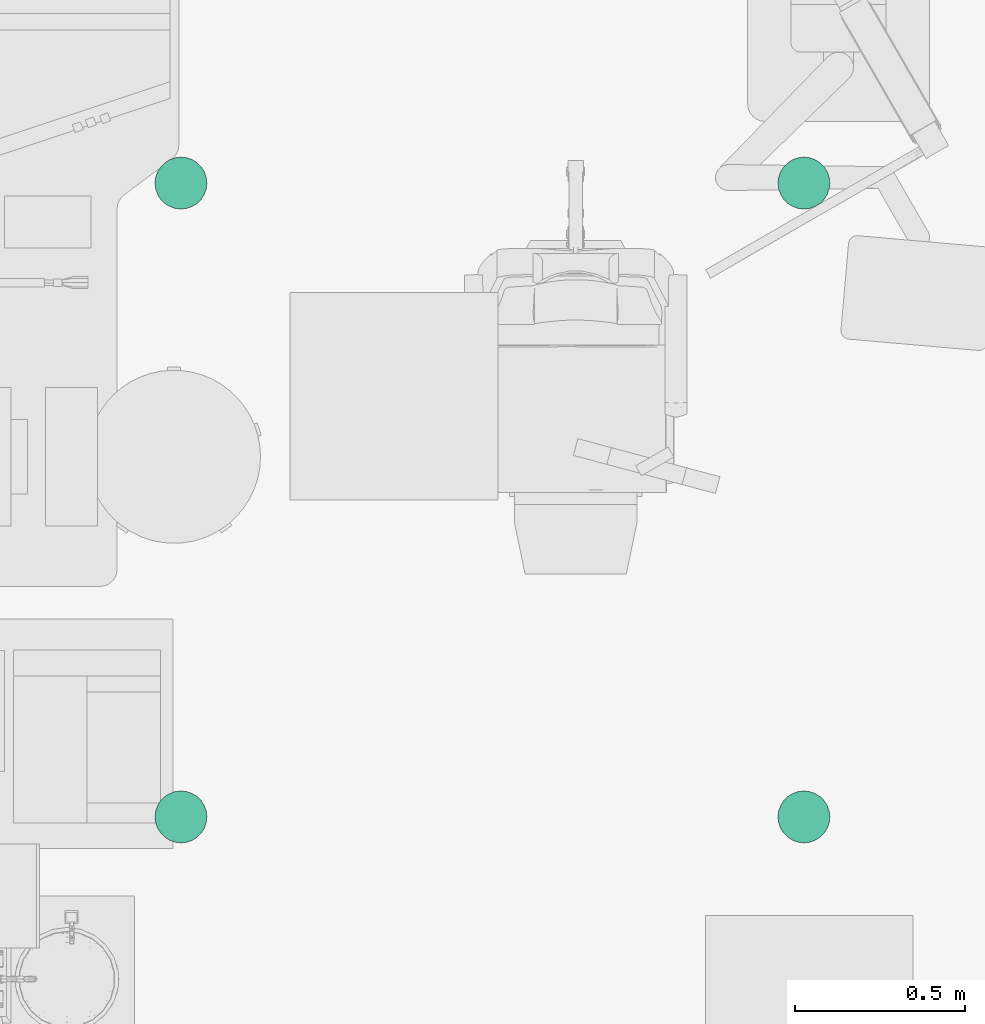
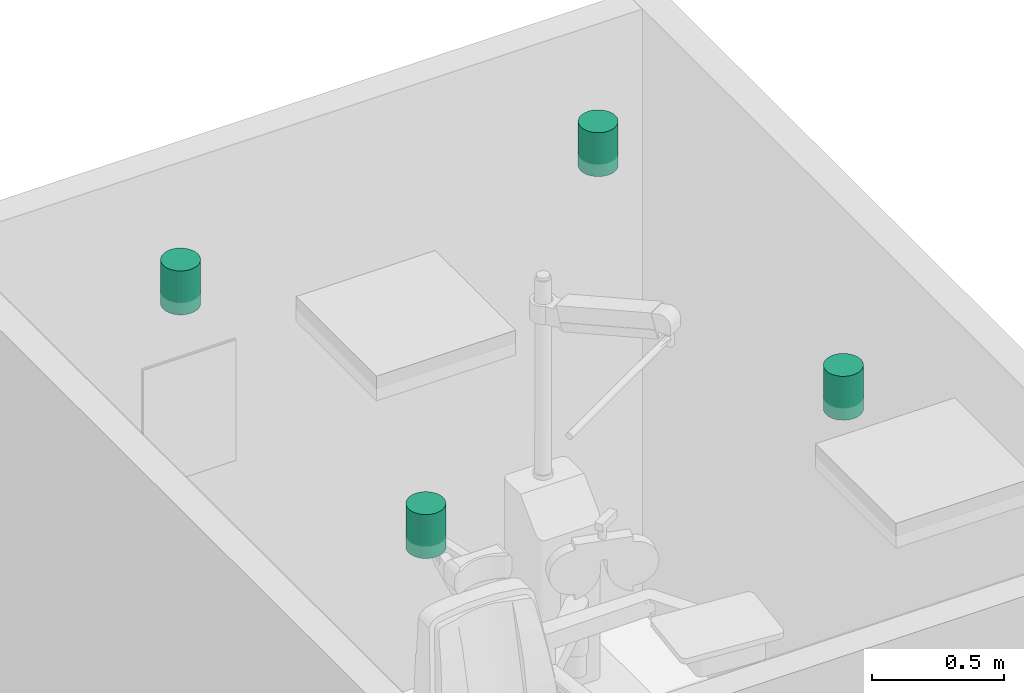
# One storey, part 4 of 11: 4 flow terminals.
"""IFC2X3 building model written with IfcOpenShell, lengths in feet."""

from ifc_helpers import new_model, entity, si_unit, converted_unit, derived_unit, direction, frame, frame_2d, origin, place, context, subcontext, project, spatial, circle, extrude, source, transform, mapped, type_object, type_shapes, element, save


model = new_model("IFC2X3")

# Units and contexts
model_context = context("Model", 3, precision=0.0001, world=origin(), true_north=direction((6.12303176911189e-17, 1.0)))
body_context = subcontext(model_context, "Body", "Model", "MODEL_VIEW")
ifc_project = project(units=[converted_unit("LENGTHUNIT", "FOOT", entity("IfcRatioMeasure", 0.3048), si_unit("LENGTHUNIT", "METRE"), dimensions=[1, 0, 0, 0, 0, 0, 0]), converted_unit("AREAUNIT", "SQUARE FOOT", entity("IfcRatioMeasure", 0.09290304), si_unit("AREAUNIT", "SQUARE_METRE"), dimensions=[2, 0, 0, 0, 0, 0, 0]), converted_unit("VOLUMEUNIT", "CUBIC FOOT", entity("IfcRatioMeasure", 0.028316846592), si_unit("VOLUMEUNIT", "CUBIC_METRE"), dimensions=[3, 0, 0, 0, 0, 0, 0]), converted_unit("PLANEANGLEUNIT", "DEGREE", entity("IfcRatioMeasure", 0.0174532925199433), si_unit("PLANEANGLEUNIT", "RADIAN"), dimensions=[0, 0, 0, 0, 0, 0, 0]), si_unit("MASSUNIT", "GRAM", prefix="KILO"), derived_unit("MASSDENSITYUNIT", [(si_unit("MASSUNIT", "GRAM", prefix="KILO"), 1), (si_unit("LENGTHUNIT", "METRE"), -3)]), si_unit("TIMEUNIT", "SECOND"), si_unit("FREQUENCYUNIT", "HERTZ"), si_unit("THERMODYNAMICTEMPERATUREUNIT", "DEGREE_CELSIUS"), derived_unit("THERMALTRANSMITTANCEUNIT", [(si_unit("MASSUNIT", "GRAM", prefix="KILO"), 1), (si_unit("THERMODYNAMICTEMPERATUREUNIT", "KELVIN"), -1), (si_unit("TIMEUNIT", "SECOND"), -3)]), derived_unit("VOLUMETRICFLOWRATEUNIT", [(si_unit("LENGTHUNIT", "METRE"), 3), (si_unit("TIMEUNIT", "SECOND"), -1)]), si_unit("ELECTRICCURRENTUNIT", "AMPERE"), si_unit("ELECTRICVOLTAGEUNIT", "VOLT"), si_unit("POWERUNIT", "WATT"), si_unit("FORCEUNIT", "NEWTON"), si_unit("ILLUMINANCEUNIT", "LUX"), si_unit("LUMINOUSFLUXUNIT", "LUMEN"), si_unit("LUMINOUSINTENSITYUNIT", "CANDELA"), derived_unit("USERDEFINED", [(si_unit("MASSUNIT", "GRAM", prefix="KILO"), -1), (si_unit("LENGTHUNIT", "METRE"), -2), (si_unit("TIMEUNIT", "SECOND"), 3), (si_unit("LUMINOUSFLUXUNIT", "LUMEN"), 1)]), derived_unit("LINEARVELOCITYUNIT", [(si_unit("LENGTHUNIT", "METRE"), 1), (si_unit("TIMEUNIT", "SECOND"), -1)]), si_unit("PRESSUREUNIT", "PASCAL"), derived_unit("USERDEFINED", [(si_unit("LENGTHUNIT", "METRE"), -2), (si_unit("MASSUNIT", "GRAM", prefix="KILO"), 1), (si_unit("TIMEUNIT", "SECOND"), -2)])], contexts=[model_context])

# Site, building, storey, space
site_placement = place(None, origin())
site = spatial("IfcSite", under=ifc_project, at=site_placement, Name="Default", CompositionType="ELEMENT")
building_placement = place(site_placement, origin())
building = spatial("IfcBuilding", under=site, at=building_placement, Name="EYE CLINIC:  OPTHALMOLOGY AND OPTOMETRY SERVICES (Ch. 233)", CompositionType="ELEMENT")
storey_placement = place(building_placement, origin())
storey = spatial("IfcBuildingStorey", under=building, at=storey_placement, Name="DATUM", CompositionType="ELEMENT", Elevation=0.0)
space_placement = place(storey_placement, origin())
space = spatial("IfcSpace", under=storey, at=space_placement, Name="(OPET2)", CompositionType="ELEMENT", InteriorOrExteriorSpace="INTERNAL")

# Flow terminals
light_fixture_type = type_object("IfcLightFixtureType", Name="6\"", PredefinedType="NOTDEFINED")
shared_shape = source(origin(), body_context, "Body", "SweptSolid", [
    extrude(circle(Radius=0.25, at=frame_2d((0.0, -3.88578058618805e-16), x_axis=(1.0, 0.0))), frame((0.132132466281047, -0.159583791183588, 7.99242651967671)), (0.0, 0.0, 1.0), 0.666666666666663),
])
type_shapes(light_fixture_type, [shared_shape])
for number, where in (
    (1, (-34.044446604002, 9.51929281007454, 1.00757348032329)),
    (2, (-34.044446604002, 3.41512614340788, 1.00757348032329)),
    (3, (-28.044446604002, 9.51929281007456, 1.00757348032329)),
    (4, (-28.044446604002, 3.4151261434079, 1.00757348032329)),
):
    element("IfcFlowTerminal", number, at=place(space_placement, frame(where)), inside=space, type_object=light_fixture_type, Name="Downlight - Recessed Can:6\"", ObjectType="6\"", context=body_context, shape_type="MappedRepresentation", body=[
        mapped(shared_shape, transform((0.0, 0.0, 0.0), scale=1.0)),
    ])

save(model, "model.ifc")
